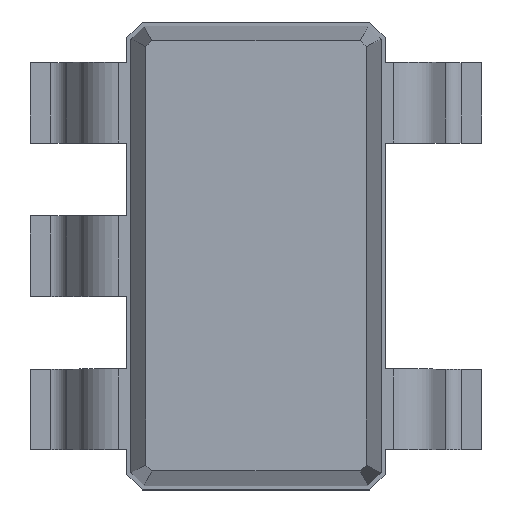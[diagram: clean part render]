
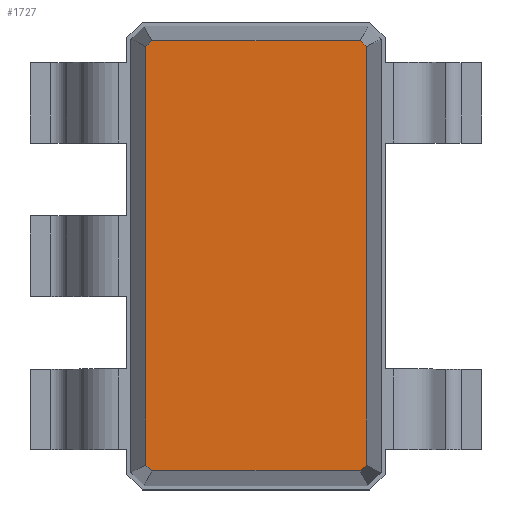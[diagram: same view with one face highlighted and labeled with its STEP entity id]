
A CAD part, top view. The second image highlights one B-rep face of the part: STEP entity #1727.
In plain terms, the highlighted planar face has unit normal (0, 0, 1).
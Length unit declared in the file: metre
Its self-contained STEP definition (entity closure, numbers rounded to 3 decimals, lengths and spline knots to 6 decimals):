
#270=ORIENTED_EDGE('',*,*,#732,.F.);
#271=ORIENTED_EDGE('',*,*,#733,.F.);
#272=ORIENTED_EDGE('',*,*,#734,.F.);
#273=ORIENTED_EDGE('',*,*,#729,.F.);
#274=ORIENTED_EDGE('',*,*,#720,.F.);
#275=ORIENTED_EDGE('',*,*,#727,.F.);
#276=ORIENTED_EDGE('',*,*,#735,.F.);
#277=ORIENTED_EDGE('',*,*,#736,.F.);
#720=EDGE_CURVE('',#936,#937,#1103,.T.);
#727=EDGE_CURVE('',#942,#936,#1108,.T.);
#729=EDGE_CURVE('',#937,#943,#1110,.T.);
#732=EDGE_CURVE('',#945,#946,#1113,.T.);
#733=EDGE_CURVE('',#947,#945,#1114,.T.);
#734=EDGE_CURVE('',#943,#947,#1115,.T.);
#735=EDGE_CURVE('',#948,#942,#1116,.T.);
#736=EDGE_CURVE('',#946,#948,#1117,.T.);
#936=VERTEX_POINT('',#2825);
#937=VERTEX_POINT('',#2827);
#942=VERTEX_POINT('',#2840);
#943=VERTEX_POINT('',#2845);
#945=VERTEX_POINT('',#2851);
#946=VERTEX_POINT('',#2852);
#947=VERTEX_POINT('',#2854);
#948=VERTEX_POINT('',#2857);
#1103=LINE('',#2826,#1312);
#1108=LINE('',#2841,#1317);
#1110=LINE('',#2844,#1319);
#1113=LINE('',#2850,#1322);
#1114=LINE('',#2853,#1323);
#1115=LINE('',#2855,#1324);
#1116=LINE('',#2856,#1325);
#1117=LINE('',#2858,#1326);
#1312=VECTOR('',#2329,1.);
#1317=VECTOR('',#2342,1.);
#1319=VECTOR('',#2346,1.);
#1322=VECTOR('',#2351,1.);
#1323=VECTOR('',#2352,1.);
#1324=VECTOR('',#2353,1.);
#1325=VECTOR('',#2354,1.);
#1326=VECTOR('',#2355,1.);
#1469=EDGE_LOOP('',(#270,#271,#272,#273,#274,#275,#276,#277));
#1562=FACE_BOUND('',#1469,.T.);
#1641=PLANE('',#2041);
#1727=ADVANCED_FACE('',(#1562),#1641,.T.);
#2041=AXIS2_PLACEMENT_3D('',#2849,#2349,#2350);
#2329=DIRECTION('',(-1.,0.,0.));
#2342=DIRECTION('',(-0.707,-0.707,0.));
#2346=DIRECTION('',(-0.707,0.707,0.));
#2349=DIRECTION('',(0.,0.,1.));
#2350=DIRECTION('',(0.436,-0.9,0.));
#2351=DIRECTION('',(1.,0.,0.));
#2352=DIRECTION('',(0.707,0.707,0.));
#2353=DIRECTION('',(0.,1.,0.));
#2354=DIRECTION('',(0.,-1.,0.));
#2355=DIRECTION('',(0.707,-0.707,0.));
#2825=CARTESIAN_POINT('',(0.146747,-0.119034,0.003145));
#2826=CARTESIAN_POINT('',(0.146747,-0.119034,0.003145));
#2827=CARTESIAN_POINT('',(0.145453,-0.119034,0.003145));
#2840=CARTESIAN_POINT('',(0.146784,-0.118997,0.003145));
#2841=CARTESIAN_POINT('',(0.146784,-0.118997,0.003145));
#2844=CARTESIAN_POINT('',(0.145453,-0.119034,0.003145));
#2845=CARTESIAN_POINT('',(0.145416,-0.118997,0.003145));
#2849=CARTESIAN_POINT('',(0.145453,-0.116366,0.003145));
#2850=CARTESIAN_POINT('',(0.145453,-0.116366,0.003145));
#2851=CARTESIAN_POINT('',(0.145453,-0.116366,0.003145));
#2852=CARTESIAN_POINT('',(0.146747,-0.116366,0.003145));
#2853=CARTESIAN_POINT('',(0.145416,-0.116403,0.003145));
#2854=CARTESIAN_POINT('',(0.145416,-0.116403,0.003145));
#2855=CARTESIAN_POINT('',(0.145416,-0.118997,0.003145));
#2856=CARTESIAN_POINT('',(0.146784,-0.116403,0.003145));
#2857=CARTESIAN_POINT('',(0.146784,-0.116403,0.003145));
#2858=CARTESIAN_POINT('',(0.146747,-0.116366,0.003145));
